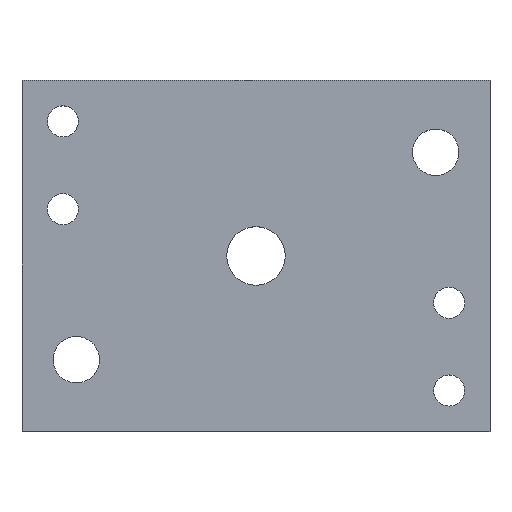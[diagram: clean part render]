
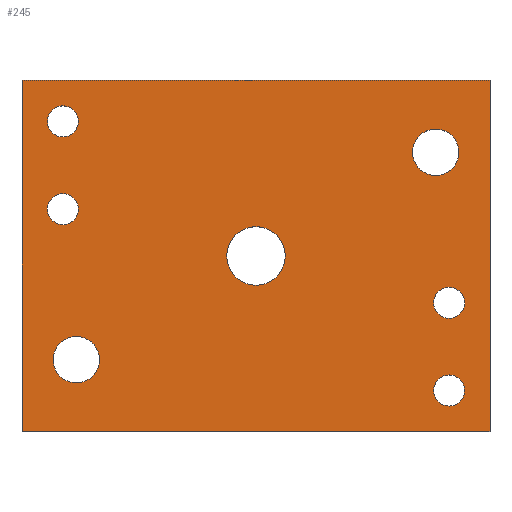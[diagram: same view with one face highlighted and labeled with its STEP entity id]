
A CAD part, top view. The second image highlights one B-rep face of the part: STEP entity #245.
In plain terms, the highlighted planar face has unit normal (0, 0, 1).
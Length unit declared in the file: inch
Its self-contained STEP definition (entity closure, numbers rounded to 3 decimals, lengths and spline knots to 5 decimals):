
#17=LINE('',#387,#29);
#20=LINE('',#393,#32);
#23=LINE('',#399,#35);
#26=LINE('',#403,#38);
#29=VECTOR('',#324,3.);
#32=VECTOR('',#329,4.);
#35=VECTOR('',#334,3.);
#38=VECTOR('',#339,4.);
#43=PLANE('',#274);
#52=FACE_BOUND('',#98,.T.);
#53=FACE_BOUND('',#99,.T.);
#54=FACE_BOUND('',#100,.T.);
#55=FACE_BOUND('',#101,.T.);
#56=FACE_BOUND('',#102,.T.);
#57=FACE_BOUND('',#103,.T.);
#58=FACE_BOUND('',#104,.T.);
#77=FACE_OUTER_BOUND('',#97,.T.);
#97=EDGE_LOOP('',(#205,#206,#207,#208));
#98=EDGE_LOOP('',(#209));
#99=EDGE_LOOP('',(#210));
#100=EDGE_LOOP('',(#211));
#101=EDGE_LOOP('',(#212));
#102=EDGE_LOOP('',(#213));
#103=EDGE_LOOP('',(#214));
#104=EDGE_LOOP('',(#215));
#113=CIRCLE('',#250,0.133);
#115=CIRCLE('',#253,0.133);
#117=CIRCLE('',#256,0.133);
#119=CIRCLE('',#259,0.133);
#121=CIRCLE('',#262,0.1985);
#123=CIRCLE('',#265,0.1985);
#126=CIRCLE('',#269,0.25);
#127=VERTEX_POINT('',#346);
#129=VERTEX_POINT('',#351);
#131=VERTEX_POINT('',#356);
#133=VERTEX_POINT('',#361);
#135=VERTEX_POINT('',#366);
#137=VERTEX_POINT('',#371);
#140=VERTEX_POINT('',#378);
#143=VERTEX_POINT('',#384);
#144=VERTEX_POINT('',#386);
#146=VERTEX_POINT('',#392);
#148=VERTEX_POINT('',#398);
#149=EDGE_CURVE('',#127,#127,#113,.T.);
#151=EDGE_CURVE('',#129,#129,#115,.T.);
#153=EDGE_CURVE('',#131,#131,#117,.T.);
#155=EDGE_CURVE('',#133,#133,#119,.T.);
#157=EDGE_CURVE('',#135,#135,#121,.T.);
#159=EDGE_CURVE('',#137,#137,#123,.T.);
#162=EDGE_CURVE('',#140,#140,#126,.T.);
#165=EDGE_CURVE('',#144,#143,#17,.T.);
#168=EDGE_CURVE('',#146,#144,#20,.T.);
#171=EDGE_CURVE('',#148,#146,#23,.T.);
#174=EDGE_CURVE('',#143,#148,#26,.T.);
#205=ORIENTED_EDGE('',*,*,#174,.T.);
#206=ORIENTED_EDGE('',*,*,#171,.T.);
#207=ORIENTED_EDGE('',*,*,#168,.T.);
#208=ORIENTED_EDGE('',*,*,#165,.T.);
#209=ORIENTED_EDGE('',*,*,#149,.T.);
#210=ORIENTED_EDGE('',*,*,#151,.T.);
#211=ORIENTED_EDGE('',*,*,#153,.T.);
#212=ORIENTED_EDGE('',*,*,#155,.T.);
#213=ORIENTED_EDGE('',*,*,#157,.T.);
#214=ORIENTED_EDGE('',*,*,#159,.T.);
#215=ORIENTED_EDGE('',*,*,#162,.T.);
#245=ADVANCED_FACE('',(#77,#52,#53,#54,#55,#56,#57,#58),#43,.T.);
#250=AXIS2_PLACEMENT_3D('',#347,#280,#281);
#253=AXIS2_PLACEMENT_3D('',#352,#286,#287);
#256=AXIS2_PLACEMENT_3D('',#357,#292,#293);
#259=AXIS2_PLACEMENT_3D('',#362,#298,#299);
#262=AXIS2_PLACEMENT_3D('',#367,#304,#305);
#265=AXIS2_PLACEMENT_3D('',#372,#310,#311);
#269=AXIS2_PLACEMENT_3D('',#379,#318,#319);
#274=AXIS2_PLACEMENT_3D('',#404,#340,#341);
#280=DIRECTION('center_axis',(0.,0.,-1.));
#281=DIRECTION('ref_axis',(-1.,0.,0.));
#286=DIRECTION('center_axis',(0.,0.,-1.));
#287=DIRECTION('ref_axis',(-1.,0.,0.));
#292=DIRECTION('center_axis',(0.,0.,-1.));
#293=DIRECTION('ref_axis',(-1.,0.,0.));
#298=DIRECTION('center_axis',(0.,0.,-1.));
#299=DIRECTION('ref_axis',(-1.,0.,0.));
#304=DIRECTION('center_axis',(0.,0.,-1.));
#305=DIRECTION('ref_axis',(-1.,0.,0.));
#310=DIRECTION('center_axis',(0.,0.,-1.));
#311=DIRECTION('ref_axis',(-1.,0.,0.));
#318=DIRECTION('center_axis',(0.,0.,-1.));
#319=DIRECTION('ref_axis',(-1.,0.,0.));
#324=DIRECTION('',(0.,-1.,0.));
#329=DIRECTION('',(-1.,0.,0.));
#334=DIRECTION('',(0.,1.,0.));
#339=DIRECTION('',(1.,0.,0.));
#340=DIRECTION('center_axis',(0.,0.,1.));
#341=DIRECTION('ref_axis',(1.,0.,0.));
#346=CARTESIAN_POINT('',(0.483,2.65,0.25));
#347=CARTESIAN_POINT('Origin',(0.35,2.65,0.25));
#351=CARTESIAN_POINT('',(3.783,1.1,0.25));
#352=CARTESIAN_POINT('Origin',(3.65,1.1,0.25));
#356=CARTESIAN_POINT('',(3.783,0.35,0.25));
#357=CARTESIAN_POINT('Origin',(3.65,0.35,0.25));
#361=CARTESIAN_POINT('',(0.483,1.9,0.25));
#362=CARTESIAN_POINT('Origin',(0.35,1.9,0.25));
#366=CARTESIAN_POINT('',(3.73434,2.38672,0.25));
#367=CARTESIAN_POINT('Origin',(3.53584,2.38672,0.25));
#371=CARTESIAN_POINT('',(0.66266,0.61328,0.25));
#372=CARTESIAN_POINT('Origin',(0.46416,0.61328,0.25));
#378=CARTESIAN_POINT('',(2.25,1.5,0.25));
#379=CARTESIAN_POINT('Origin',(2.,1.5,0.25));
#384=CARTESIAN_POINT('',(0.,0.,0.25));
#386=CARTESIAN_POINT('',(0.,3.,0.25));
#387=CARTESIAN_POINT('',(0.,3.,0.25));
#392=CARTESIAN_POINT('',(4.,3.,0.25));
#393=CARTESIAN_POINT('',(4.,3.,0.25));
#398=CARTESIAN_POINT('',(4.,0.,0.25));
#399=CARTESIAN_POINT('',(4.,0.,0.25));
#403=CARTESIAN_POINT('',(0.,0.,0.25));
#404=CARTESIAN_POINT('Origin',(2.,1.5,0.25));
